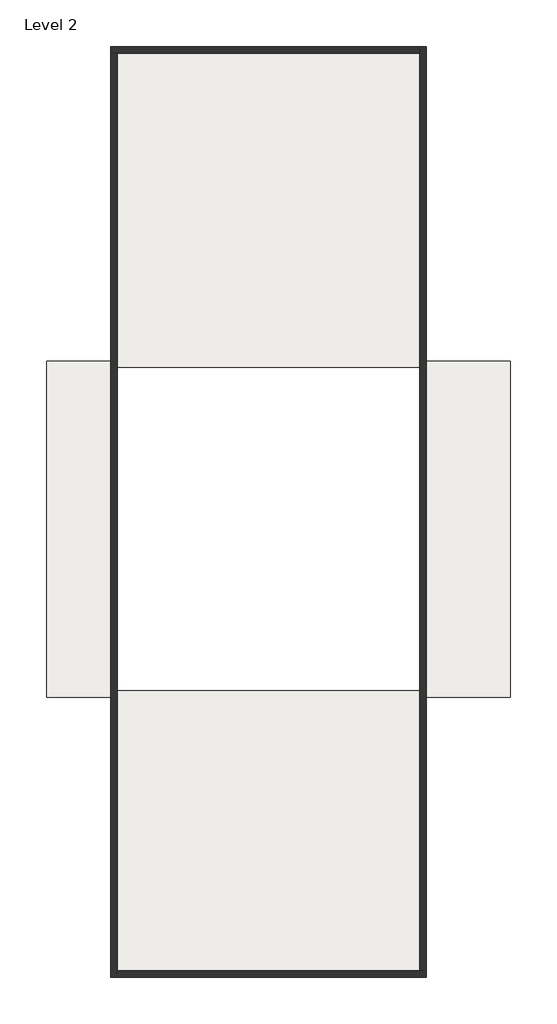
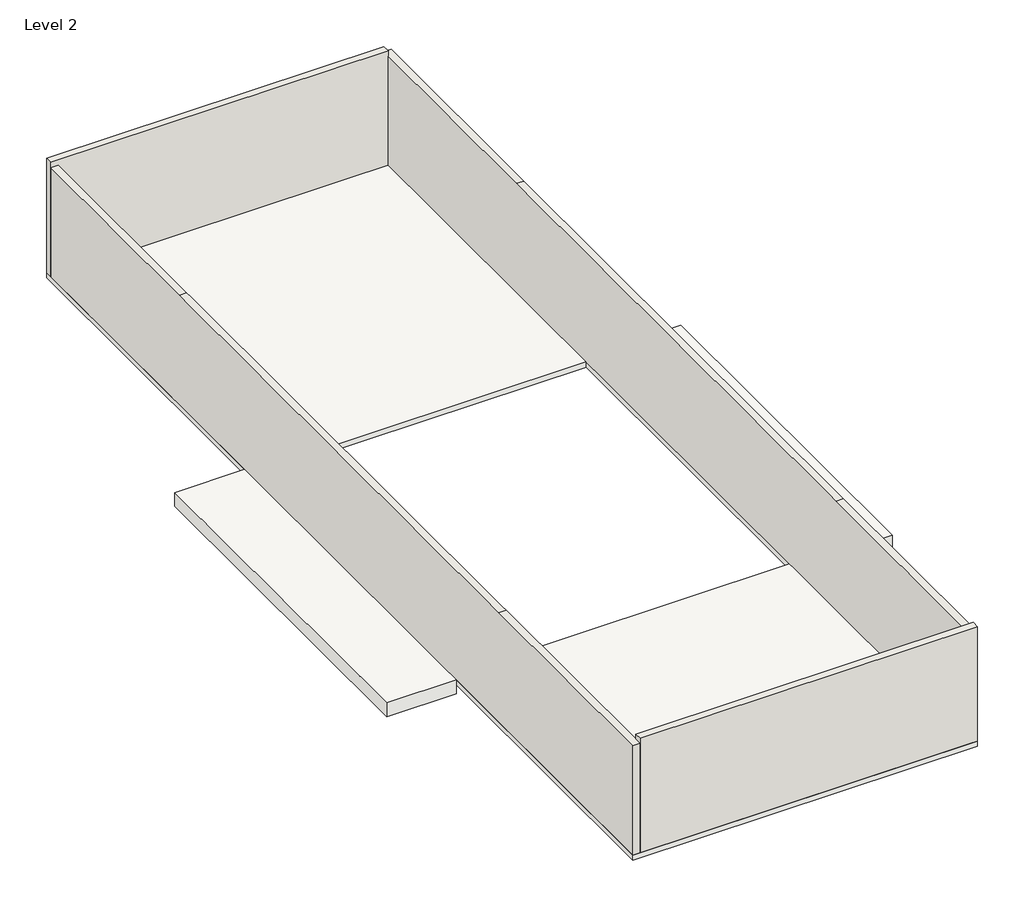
# One storey: 4 walls, 2 roofs, 1 slab.
"""IFC4 building model written with IfcOpenShell, lengths in millimetres."""

from ifc_helpers import new_model, si_unit, frame, origin, place, context, project, spatial, polyline, outline, extrude, faceted_brep, element, save

model = new_model("IFC4")

# Units and contexts
model_context = context("Model", 3, world=origin())
ifc_project = project(units=[si_unit("LENGTHUNIT", "METRE", prefix="MILLI")], contexts=[model_context])

# Site, building, storey
site = spatial("IfcSite", under=ifc_project)
building = spatial("IfcBuilding", under=site)
storey = spatial("IfcBuildingStorey", under=building, Name="Level 2", Elevation=4000.0)

# Roofs
placement = place(None, origin())
element("IfcRoof", 1, ObjectType="Generic - 400mm", at=placement, inside=storey, context=model_context, shape_type="SweptSolid", body=[
    extrude(outline(polyline([(-6619.4166431, 7807.6658489), (-4715.9836021, 7807.6658489), (-4715.9836021, -2192.3341511), (-6619.4166431, -2192.3341511), (-6619.4166431, 7807.6658489)])), frame((0.0, 0.0, 3600.0), z_axis=(0.0, 0.0, 1.0), x_axis=(1.0, 0.0, 0.0)), (0.0, 0.0, 1.0), 400.0),
])
element("IfcRoof", 2, ObjectType="Generic - 400mm", at=placement, inside=storey, context=model_context, shape_type="SweptSolid", body=[
    extrude(outline(polyline([(4684.0163979, 7807.6658489), (7180.5833569, 7807.6658489), (7180.5833569, -2192.3341511), (4684.0163979, -2192.3341511), (4684.0163979, 7807.6658489)])), frame((0.0, 0.0, 3600.0), z_axis=(0.0, 0.0, 1.0), x_axis=(1.0, 0.0, 0.0)), (0.0, 0.0, 1.0), 400.0),
])

# Slab
element("IfcSlab", 3, ObjectType="Generic 150mm", at=placement, inside=storey, context=model_context, shape_type="SweptSolid", body=[
    extrude(outline(polyline([(4684.0163979, 17166.2116338), (4684.0163979, -10533.7883662), (-4715.9836021, -10533.7883662), (-4715.9836021, 17166.2116338), (4684.0163979, 17166.2116338)]), holes=[polyline([(4484.0163979, 7607.6658489), (-4515.9836021, 7607.6658489), (-4515.9836021, -1992.3341511), (4484.0163979, -1992.3341511), (4484.0163979, 7607.6658489)])]), frame((0.0, 0.0, 3850.0), z_axis=(0.0, 0.0, 1.0), x_axis=(1.0, 0.0, 0.0)), (0.0, 0.0, 1.0), 150.0),
])

# Walls
element("IfcWall", 4, ObjectType="Generic - 200mm", at=placement, inside=storey, context=model_context, shape_type="Brep", body=[
    faceted_brep([(-4715.9836021, 16966.2116338, 4000.0), (-4515.9836021, 16966.2116338, 4000.0), (4484.0163979, 16966.2116338, 4000.0), (4484.0163979, 16966.2116338, 7300.0), (-4715.9836021, 16966.2116338, 7300.0), (-4715.9836021, 16966.2116338, 7150.0), (-4715.9836021, 17166.2116338, 4000.0), (-4715.9836021, 17166.2116338, 7300.0), (4484.0163979, 17166.2116338, 7300.0), (4484.0163979, 17166.2116338, 7150.0), (4484.0163979, 17166.2116338, 4000.0)], [[[0, 1, 2, 3, 4, 5]], [[6, 7, 8, 9, 10]], [[2, 1, 0, 6, 10]], [[4, 3, 8, 7]], [[0, 5, 4, 7, 6]], [[3, 2, 10, 9, 8]]]),
])
element("IfcWall", 5, ObjectType="Generic - 200mm", at=placement, inside=storey, context=model_context, shape_type="Brep", body=[
    faceted_brep([(-4515.9836021, -10533.7883662, 4000.0), (-4515.9836021, -10333.7883662, 4000.0), (-4515.9836021, 16966.2116338, 4000.0), (-4515.9836021, 16966.2116338, 7150.0), (-4515.9836021, 10900.7445405, 7150.0), (-4515.9836021, 10700.7445405, 7150.0), (-4515.9836021, -3999.2554595, 7150.0), (-4515.9836021, -4199.2554595, 7150.0), (-4515.9836021, -10533.7883662, 7150.0), (-4715.9836021, -10533.7883662, 4000.0), (-4715.9836021, -10533.7883662, 7150.0), (-4715.9836021, -4199.2554595, 7150.0), (-4715.9836021, 10900.7445405, 7150.0), (-4715.9836021, 16966.2116338, 7150.0), (-4715.9836021, 16966.2116338, 4000.0)], [[[0, 1, 2, 3, 4, 5, 6, 7, 8]], [[9, 10, 11, 12, 13, 14]], [[2, 1, 0, 9, 14]], [[0, 8, 10, 9]], [[3, 2, 14, 13]], [[8, 7, 11, 10]], [[4, 3, 13, 12]], [[7, 6, 5, 4, 12, 11]]]),
])
element("IfcWall", 6, ObjectType="Generic - 200mm", at=placement, inside=storey, context=model_context, shape_type="Brep", body=[
    faceted_brep([(4684.0163979, -10333.7883662, 4000.0), (4484.0163979, -10333.7883662, 4000.0), (-4515.9836021, -10333.7883662, 4000.0), (-4515.9836021, -10333.7883662, 7300.0), (4684.0163979, -10333.7883662, 7300.0), (4684.0163979, -10333.7883662, 7150.0), (4684.0163979, -10533.7883662, 4000.0), (4684.0163979, -10533.7883662, 7300.0), (-4515.9836021, -10533.7883662, 7300.0), (-4515.9836021, -10533.7883662, 7150.0), (-4515.9836021, -10533.7883662, 4000.0)], [[[0, 1, 2, 3, 4, 5]], [[6, 7, 8, 9, 10]], [[2, 1, 0, 6, 10]], [[4, 3, 8, 7]], [[0, 5, 4, 7, 6]], [[3, 2, 10, 9, 8]]]),
])
element("IfcWall", 7, ObjectType="Generic - 200mm", at=placement, inside=storey, context=model_context, shape_type="Brep", body=[
    faceted_brep([(4484.0163979, 17166.2116338, 4000.0), (4484.0163979, 16966.2116338, 4000.0), (4484.0163979, -10333.7883662, 4000.0), (4484.0163979, -10333.7883662, 7150.0), (4484.0163979, -4199.2554595, 7150.0), (4484.0163979, -3999.2554595, 7150.0), (4484.0163979, 10700.7445405, 7150.0), (4484.0163979, 10900.7445405, 7150.0), (4484.0163979, 17166.2116338, 7150.0), (4684.0163979, 17166.2116338, 4000.0), (4684.0163979, 17166.2116338, 7150.0), (4684.0163979, 10900.7445405, 7150.0), (4684.0163979, -4199.2554595, 7150.0), (4684.0163979, -10333.7883662, 7150.0), (4684.0163979, -10333.7883662, 4000.0)], [[[0, 1, 2, 3, 4, 5, 6, 7, 8]], [[9, 10, 11, 12, 13, 14]], [[2, 1, 0, 9, 14]], [[0, 8, 10, 9]], [[3, 2, 14, 13]], [[4, 3, 13, 12]], [[8, 7, 11, 10]], [[7, 6, 5, 4, 12, 11]]]),
])

save(model, "model.ifc")
